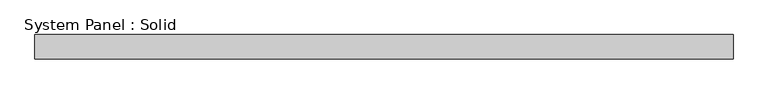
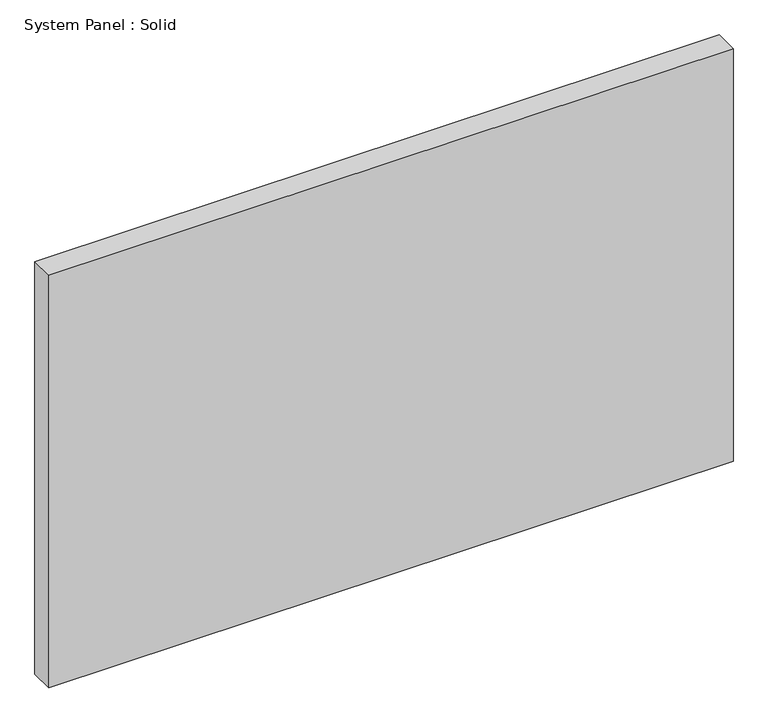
"""IFC4 building model written with IfcOpenShell, lengths in millimetres: plate geometry, System Panel : Solid."""

from ifc_helpers import new_model, si_unit, origin, origin_with_axes, place, context, project, spatial, polyline, outline, extrude, source, transform, mapped, element, save


def system_panel_solid_18cbf428(model_context):
    return source(origin(), model_context, "Body", "SweptSolid", [
        extrude(outline(polyline([(906.4625, -19.05), (-906.4625, -19.05), (-906.4625, 44.45), (906.4625, 44.45), (906.4625, -19.05)])), origin_with_axes(), (0.0, 0.0, 1.0), 1155.7),
    ])


if __name__ == "__main__":
    model = new_model("IFC4")
    model_context = context("Model", 3, world=origin())
    ifc_project = project(units=[si_unit("LENGTHUNIT", "METRE", prefix="MILLI")], contexts=[model_context])
    site = spatial("IfcSite", under=ifc_project)
    building = spatial("IfcBuilding", under=site)
    placement = place(None, origin())
    system_panel_solid_shape = system_panel_solid_18cbf428(model_context)
    element("IfcPlate", 1, ObjectType="System Panel : Solid", at=placement, inside=building, context=model_context, shape_type="MappedRepresentation", body=[
        mapped(system_panel_solid_shape, transform((0.0, 0.0, 0.0), x_axis=(1.0, 0.0, 0.0), y_axis=(0.0, 1.0, 0.0), z_axis=(0.0, 0.0, 1.0))),
    ])
    save(model, "model.ifc")
